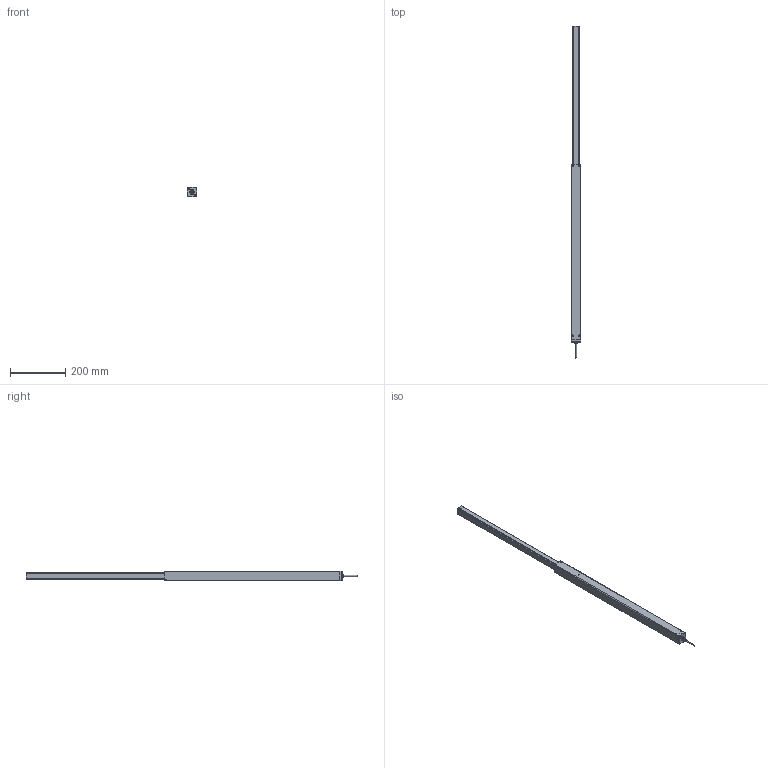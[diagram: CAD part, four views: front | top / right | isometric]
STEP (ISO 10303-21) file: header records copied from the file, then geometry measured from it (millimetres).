
FILE_DESCRIPTION(/* description */ ('Unknown'),/* implementation_level */ '2;1');
FILE_NAME(/* name */ '306.10005 Lineareinheit LH 1450 ausgefahren',/* time_stamp */ '2018-02-13T17:25:12+01:00',/* author */ ('Unknown'),/* organization */ ('Unknown'),/* preprocessor_version */ 'ST-DEVELOPER v16.7',/* originating_system */ 'DEX',/* authorisation */ $);
FILE_SCHEMA (('AUTOMOTIVE_DESIGN {1 0 10303 214 3 1 1}'));
Length unit declared in the file: millimetre
Products named in the file (14): 306.10005; 107.00125_oa_0; 115.00001_oa_1; 125.00031; 142.00021; 125.00021; 127.00249; 127.00235_oa_2; Aussenrohr LH 1450; Innenrohr LH 1450; 142.00184; 113.00002_70mm; 142.00031; 142.00138
Assembly tree (15 placements, depth 3):
  306.10005
    107.00125_oa_0
      115.00001_oa_1
      125.00031
      142.00021
      125.00021
    127.00249
    127.00235_oa_2
      Aussenrohr LH 1450
      Innenrohr LH 1450
      142.00184  x2
    113.00002_70mm
    142.00031
    142.00138  x2
Bounding box: 35 x 1199 x 35 mm (x, y, z)
Volume: 299494.7 mm3; surface area: 293308.7 mm2
Topology: 13 solids, 13 shells, 237 faces, 572 edges, 373 vertices
Faces by surface type: plane 118, cylinder 93, cone 19, torus 6, sphere 1
Full cylindrical faces by diameter (mm): 1.8 x2, 2.1 x2, 2.2 x1, 3 x4, 3.5 x1, 4 x1, 4.1 x1, 4.134 x6, 4.2 x1, 5 x2, 6 x2, 6.917 x2, 8 x2, 8.376 x1, 8.5 x2, 9 x1, 12.5 x1, 13 x2, 13.2 x1, 13.9 x2, 23.6 x1, 25 x1
Entity records: 7275 total; most frequent: DIRECTION 1110, CARTESIAN_POINT 1103, ORIENTED_EDGE 950, EDGE_CURVE 475, AXIS2_PLACEMENT_3D 421, VERTEX_POINT 342, FACE_BOUND 317, EDGE_LOOP 316
